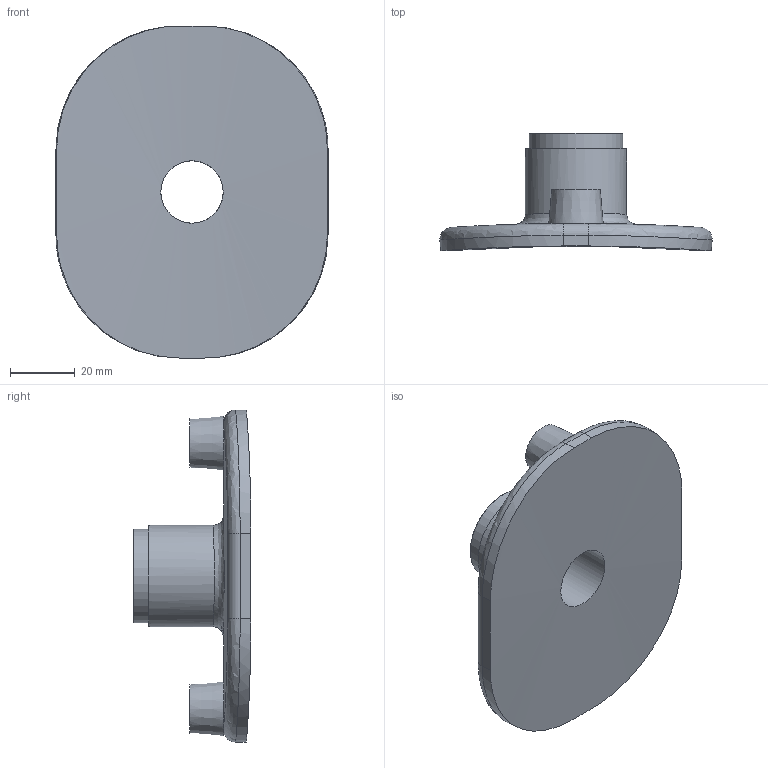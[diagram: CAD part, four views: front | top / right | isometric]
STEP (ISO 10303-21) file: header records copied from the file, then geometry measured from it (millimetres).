
FILE_DESCRIPTION(/* description */ ('PLASSON SENSOR ADAPTOR WITH STAINLESS STEEL THREAD 18''''48''''IPSx3/4'''''),/* implementation_level */ '2;1');
FILE_NAME(/* name */ 'C:\Dropbox\KIMPROJECTS-Inventor 2019\99-16-3568-Processing Inch\ASTM ElectroFusion 2021\5938S\5938S3900007.ipt.stp',/* time_stamp */ '2021-08-30T09:52:55+03:00',/* author */ ('Кирилл'),/* organization */ (''),/* preprocessor_version */ 'ST-DEVELOPER v17.2',/* originating_system */ 'Autodesk Inventor 2019',/* authorisation */ '');
FILE_SCHEMA (('AUTOMOTIVE_DESIGN { 1 0 10303 214 3 1 1 }'));
Length unit declared in the file: inch
Products named in the file (1): 5938S3900007
Bounding box: 84.33 x 36.5 x 102.87 mm (x, y, z)
Volume: 63077.3 mm3; surface area: 22829.8 mm2
Topology: 1 solids, 1 shells, 43 faces, 96 edges, 62 vertices
Faces by surface type: cylinder 19, plane 12, cone 5, bspline 5, torus 2
Full cylindrical faces by diameter (mm): 4 x2, 10 x2, 19.294 x1, 24.117 x1, 28.94 x1, 31.352 x1
Entity records: 1777 total; most frequent: CARTESIAN_POINT 802, ORIENTED_EDGE 194, DIRECTION 182, EDGE_CURVE 97, AXIS2_PLACEMENT_3D 77, VERTEX_POINT 63, EDGE_LOOP 52, FACE_OUTER_BOUND 43
